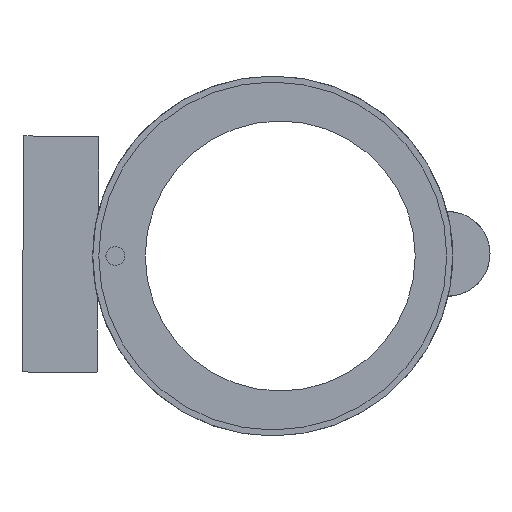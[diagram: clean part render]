
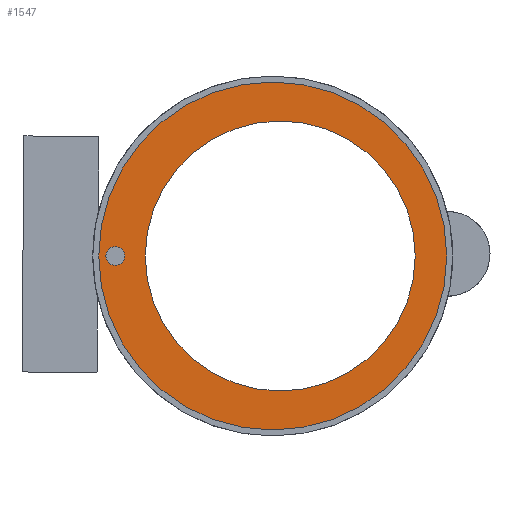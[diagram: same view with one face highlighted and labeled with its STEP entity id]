
A CAD part, front view. The second image highlights one B-rep face of the part: STEP entity #1547.
In plain terms, the highlighted planar face has unit normal (0, -1, 0).
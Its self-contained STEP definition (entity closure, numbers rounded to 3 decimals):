
#159 = CYLINDRICAL_SURFACE('',#160,1.25);
#160 = AXIS2_PLACEMENT_3D('',#161,#162,#163);
#161 = CARTESIAN_POINT('',(-22.,-0.45,0.));
#162 = DIRECTION('',(-0.,1.,-0.));
#163 = DIRECTION('',(0.,0.,1.));
#184 = VERTEX_POINT('',#185);
#185 = CARTESIAN_POINT('',(-22.,0.,-1.25));
#199 = CYLINDRICAL_SURFACE('',#200,1.25);
#200 = AXIS2_PLACEMENT_3D('',#201,#202,#203);
#201 = CARTESIAN_POINT('',(-22.,-0.45,0.));
#202 = DIRECTION('',(-0.,1.,-0.));
#203 = DIRECTION('',(0.,0.,1.));
#211 = EDGE_CURVE('',#184,#212,#214,.T.);
#212 = VERTEX_POINT('',#213);
#213 = CARTESIAN_POINT('',(-22.,0.,1.25));
#214 = SURFACE_CURVE('',#215,(#220,#227),.PCURVE_S1.);
#215 = CIRCLE('',#216,1.25);
#216 = AXIS2_PLACEMENT_3D('',#217,#218,#219);
#217 = CARTESIAN_POINT('',(-22.,0.,0.));
#218 = DIRECTION('',(0.,-1.,0.));
#219 = DIRECTION('',(0.,0.,1.));
#220 = PCURVE('',#159,#221);
#221 = DEFINITIONAL_REPRESENTATION('',(#222),#226);
#222 = LINE('',#223,#224);
#223 = CARTESIAN_POINT('',(6.283,0.45));
#224 = VECTOR('',#225,1.);
#225 = DIRECTION('',(-1.,0.));
#226 = ( GEOMETRIC_REPRESENTATION_CONTEXT(2) 
PARAMETRIC_REPRESENTATION_CONTEXT() REPRESENTATION_CONTEXT('2D SPACE',''
  ) );
#227 = PCURVE('',#228,#233);
#228 = PLANE('',#229);
#229 = AXIS2_PLACEMENT_3D('',#230,#231,#232);
#230 = CARTESIAN_POINT('',(-1.,0.,0.));
#231 = DIRECTION('',(0.,1.,0.));
#232 = DIRECTION('',(0.,-0.,1.));
#233 = DEFINITIONAL_REPRESENTATION('',(#234),#242);
#234 = ( BOUNDED_CURVE() B_SPLINE_CURVE(2,(#235,#236,#237,#238,#239,#240
,#241),.UNSPECIFIED.,.T.,.F.) B_SPLINE_CURVE_WITH_KNOTS((1,2,2,2,2,1),(
    -2.094,0.,2.094,4.189,6.283,
8.378),.UNSPECIFIED.) CURVE() GEOMETRIC_REPRESENTATION_ITEM() 
RATIONAL_B_SPLINE_CURVE((1.,0.5,1.,0.5,1.,0.5,1.)) REPRESENTATION_ITEM(
  '') );
#235 = CARTESIAN_POINT('',(1.25,-21.));
#236 = CARTESIAN_POINT('',(1.25,-23.165));
#237 = CARTESIAN_POINT('',(-0.625,-22.083));
#238 = CARTESIAN_POINT('',(-2.5,-21.));
#239 = CARTESIAN_POINT('',(-0.625,-19.917));
#240 = CARTESIAN_POINT('',(1.25,-18.835));
#241 = CARTESIAN_POINT('',(1.25,-21.));
#242 = ( GEOMETRIC_REPRESENTATION_CONTEXT(2) 
PARAMETRIC_REPRESENTATION_CONTEXT() REPRESENTATION_CONTEXT('2D SPACE',''
  ) );
#271 = VERTEX_POINT('',#272);
#272 = CARTESIAN_POINT('',(-1.,0.,23.2));
#279 = CYLINDRICAL_SURFACE('',#280,23.2);
#280 = AXIS2_PLACEMENT_3D('',#281,#282,#283);
#281 = CARTESIAN_POINT('',(-1.,-3.5,0.));
#282 = DIRECTION('',(0.,1.,0.));
#283 = DIRECTION('',(0.,-0.,1.));
#291 = CYLINDRICAL_SURFACE('',#292,23.2);
#292 = AXIS2_PLACEMENT_3D('',#293,#294,#295);
#293 = CARTESIAN_POINT('',(-1.,-3.5,0.));
#294 = DIRECTION('',(0.,1.,0.));
#295 = DIRECTION('',(0.,-0.,1.));
#303 = EDGE_CURVE('',#304,#271,#306,.T.);
#304 = VERTEX_POINT('',#305);
#305 = CARTESIAN_POINT('',(-1.,0.,-23.2));
#306 = SURFACE_CURVE('',#307,(#312,#319),.PCURVE_S1.);
#307 = CIRCLE('',#308,23.2);
#308 = AXIS2_PLACEMENT_3D('',#309,#310,#311);
#309 = CARTESIAN_POINT('',(-1.,0.,0.));
#310 = DIRECTION('',(0.,1.,0.));
#311 = DIRECTION('',(0.,-0.,1.));
#312 = PCURVE('',#279,#313);
#313 = DEFINITIONAL_REPRESENTATION('',(#314),#318);
#314 = LINE('',#315,#316);
#315 = CARTESIAN_POINT('',(0.,3.5));
#316 = VECTOR('',#317,1.);
#317 = DIRECTION('',(1.,0.));
#318 = ( GEOMETRIC_REPRESENTATION_CONTEXT(2) 
PARAMETRIC_REPRESENTATION_CONTEXT() REPRESENTATION_CONTEXT('2D SPACE',''
  ) );
#319 = PCURVE('',#228,#320);
#320 = DEFINITIONAL_REPRESENTATION('',(#321),#325);
#321 = CIRCLE('',#322,23.2);
#322 = AXIS2_PLACEMENT_2D('',#323,#324);
#323 = CARTESIAN_POINT('',(0.,0.));
#324 = DIRECTION('',(1.,0.));
#325 = ( GEOMETRIC_REPRESENTATION_CONTEXT(2) 
PARAMETRIC_REPRESENTATION_CONTEXT() REPRESENTATION_CONTEXT('2D SPACE',''
  ) );
#383 = VERTEX_POINT('',#384);
#384 = CARTESIAN_POINT('',(0.,0.,-18.));
#391 = CYLINDRICAL_SURFACE('',#392,18.);
#392 = AXIS2_PLACEMENT_3D('',#393,#394,#395);
#393 = CARTESIAN_POINT('',(0.,1.5,0.));
#394 = DIRECTION('',(-0.,-1.,-0.));
#395 = DIRECTION('',(0.,0.,-1.));
#403 = CYLINDRICAL_SURFACE('',#404,18.);
#404 = AXIS2_PLACEMENT_3D('',#405,#406,#407);
#405 = CARTESIAN_POINT('',(0.,1.5,0.));
#406 = DIRECTION('',(-0.,-1.,-0.));
#407 = DIRECTION('',(0.,0.,-1.));
#415 = EDGE_CURVE('',#383,#416,#418,.T.);
#416 = VERTEX_POINT('',#417);
#417 = CARTESIAN_POINT('',(0.,0.,18.));
#418 = SURFACE_CURVE('',#419,(#424,#431),.PCURVE_S1.);
#419 = CIRCLE('',#420,18.);
#420 = AXIS2_PLACEMENT_3D('',#421,#422,#423);
#421 = CARTESIAN_POINT('',(0.,0.,0.));
#422 = DIRECTION('',(0.,1.,0.));
#423 = DIRECTION('',(0.,-0.,1.));
#424 = PCURVE('',#391,#425);
#425 = DEFINITIONAL_REPRESENTATION('',(#426),#430);
#426 = LINE('',#427,#428);
#427 = CARTESIAN_POINT('',(9.425,1.5));
#428 = VECTOR('',#429,1.);
#429 = DIRECTION('',(-1.,0.));
#430 = ( GEOMETRIC_REPRESENTATION_CONTEXT(2) 
PARAMETRIC_REPRESENTATION_CONTEXT() REPRESENTATION_CONTEXT('2D SPACE',''
  ) );
#431 = PCURVE('',#228,#432);
#432 = DEFINITIONAL_REPRESENTATION('',(#433),#437);
#433 = CIRCLE('',#434,18.);
#434 = AXIS2_PLACEMENT_2D('',#435,#436);
#435 = CARTESIAN_POINT('',(0.,1.));
#436 = DIRECTION('',(1.,0.));
#437 = ( GEOMETRIC_REPRESENTATION_CONTEXT(2) 
PARAMETRIC_REPRESENTATION_CONTEXT() REPRESENTATION_CONTEXT('2D SPACE',''
  ) );
#1547 = ADVANCED_FACE('',(#1548,#1577,#1602),#228,.F.);
#1548 = FACE_BOUND('',#1549,.T.);
#1549 = EDGE_LOOP('',(#1550,#1576));
#1550 = ORIENTED_EDGE('',*,*,#1551,.F.);
#1551 = EDGE_CURVE('',#212,#184,#1552,.T.);
#1552 = SURFACE_CURVE('',#1553,(#1558,#1569),.PCURVE_S1.);
#1553 = CIRCLE('',#1554,1.25);
#1554 = AXIS2_PLACEMENT_3D('',#1555,#1556,#1557);
#1555 = CARTESIAN_POINT('',(-22.,0.,0.));
#1556 = DIRECTION('',(0.,-1.,0.));
#1557 = DIRECTION('',(0.,0.,1.));
#1558 = PCURVE('',#228,#1559);
#1559 = DEFINITIONAL_REPRESENTATION('',(#1560),#1568);
#1560 = ( BOUNDED_CURVE() B_SPLINE_CURVE(2,(#1561,#1562,#1563,#1564,
#1565,#1566,#1567),.UNSPECIFIED.,.T.,.F.) B_SPLINE_CURVE_WITH_KNOTS((1,2
    ,2,2,2,1),(-2.094,0.,2.094,4.189,
6.283,8.378),.UNSPECIFIED.) CURVE() 
GEOMETRIC_REPRESENTATION_ITEM() RATIONAL_B_SPLINE_CURVE((1.,0.5,1.,0.5,
1.,0.5,1.)) REPRESENTATION_ITEM('') );
#1561 = CARTESIAN_POINT('',(1.25,-21.));
#1562 = CARTESIAN_POINT('',(1.25,-23.165));
#1563 = CARTESIAN_POINT('',(-0.625,-22.083));
#1564 = CARTESIAN_POINT('',(-2.5,-21.));
#1565 = CARTESIAN_POINT('',(-0.625,-19.917));
#1566 = CARTESIAN_POINT('',(1.25,-18.835));
#1567 = CARTESIAN_POINT('',(1.25,-21.));
#1568 = ( GEOMETRIC_REPRESENTATION_CONTEXT(2) 
PARAMETRIC_REPRESENTATION_CONTEXT() REPRESENTATION_CONTEXT('2D SPACE',''
  ) );
#1569 = PCURVE('',#199,#1570);
#1570 = DEFINITIONAL_REPRESENTATION('',(#1571),#1575);
#1571 = LINE('',#1572,#1573);
#1572 = CARTESIAN_POINT('',(6.283,0.45));
#1573 = VECTOR('',#1574,1.);
#1574 = DIRECTION('',(-1.,0.));
#1575 = ( GEOMETRIC_REPRESENTATION_CONTEXT(2) 
PARAMETRIC_REPRESENTATION_CONTEXT() REPRESENTATION_CONTEXT('2D SPACE',''
  ) );
#1576 = ORIENTED_EDGE('',*,*,#211,.F.);
#1577 = FACE_BOUND('',#1578,.T.);
#1578 = EDGE_LOOP('',(#1579,#1601));
#1579 = ORIENTED_EDGE('',*,*,#1580,.F.);
#1580 = EDGE_CURVE('',#271,#304,#1581,.T.);
#1581 = SURFACE_CURVE('',#1582,(#1587,#1594),.PCURVE_S1.);
#1582 = CIRCLE('',#1583,23.2);
#1583 = AXIS2_PLACEMENT_3D('',#1584,#1585,#1586);
#1584 = CARTESIAN_POINT('',(-1.,0.,0.));
#1585 = DIRECTION('',(0.,1.,0.));
#1586 = DIRECTION('',(0.,-0.,1.));
#1587 = PCURVE('',#228,#1588);
#1588 = DEFINITIONAL_REPRESENTATION('',(#1589),#1593);
#1589 = CIRCLE('',#1590,23.2);
#1590 = AXIS2_PLACEMENT_2D('',#1591,#1592);
#1591 = CARTESIAN_POINT('',(0.,0.));
#1592 = DIRECTION('',(1.,0.));
#1593 = ( GEOMETRIC_REPRESENTATION_CONTEXT(2) 
PARAMETRIC_REPRESENTATION_CONTEXT() REPRESENTATION_CONTEXT('2D SPACE',''
  ) );
#1594 = PCURVE('',#291,#1595);
#1595 = DEFINITIONAL_REPRESENTATION('',(#1596),#1600);
#1596 = LINE('',#1597,#1598);
#1597 = CARTESIAN_POINT('',(0.,3.5));
#1598 = VECTOR('',#1599,1.);
#1599 = DIRECTION('',(1.,0.));
#1600 = ( GEOMETRIC_REPRESENTATION_CONTEXT(2) 
PARAMETRIC_REPRESENTATION_CONTEXT() REPRESENTATION_CONTEXT('2D SPACE',''
  ) );
#1601 = ORIENTED_EDGE('',*,*,#303,.F.);
#1602 = FACE_BOUND('',#1603,.T.);
#1603 = EDGE_LOOP('',(#1604,#1605));
#1604 = ORIENTED_EDGE('',*,*,#415,.T.);
#1605 = ORIENTED_EDGE('',*,*,#1606,.T.);
#1606 = EDGE_CURVE('',#416,#383,#1607,.T.);
#1607 = SURFACE_CURVE('',#1608,(#1613,#1620),.PCURVE_S1.);
#1608 = CIRCLE('',#1609,18.);
#1609 = AXIS2_PLACEMENT_3D('',#1610,#1611,#1612);
#1610 = CARTESIAN_POINT('',(0.,0.,0.));
#1611 = DIRECTION('',(0.,1.,0.));
#1612 = DIRECTION('',(0.,-0.,1.));
#1613 = PCURVE('',#228,#1614);
#1614 = DEFINITIONAL_REPRESENTATION('',(#1615),#1619);
#1615 = CIRCLE('',#1616,18.);
#1616 = AXIS2_PLACEMENT_2D('',#1617,#1618);
#1617 = CARTESIAN_POINT('',(0.,1.));
#1618 = DIRECTION('',(1.,0.));
#1619 = ( GEOMETRIC_REPRESENTATION_CONTEXT(2) 
PARAMETRIC_REPRESENTATION_CONTEXT() REPRESENTATION_CONTEXT('2D SPACE',''
  ) );
#1620 = PCURVE('',#403,#1621);
#1621 = DEFINITIONAL_REPRESENTATION('',(#1622),#1626);
#1622 = LINE('',#1623,#1624);
#1623 = CARTESIAN_POINT('',(3.142,1.5));
#1624 = VECTOR('',#1625,1.);
#1625 = DIRECTION('',(-1.,0.));
#1626 = ( GEOMETRIC_REPRESENTATION_CONTEXT(2) 
PARAMETRIC_REPRESENTATION_CONTEXT() REPRESENTATION_CONTEXT('2D SPACE',''
  ) );
